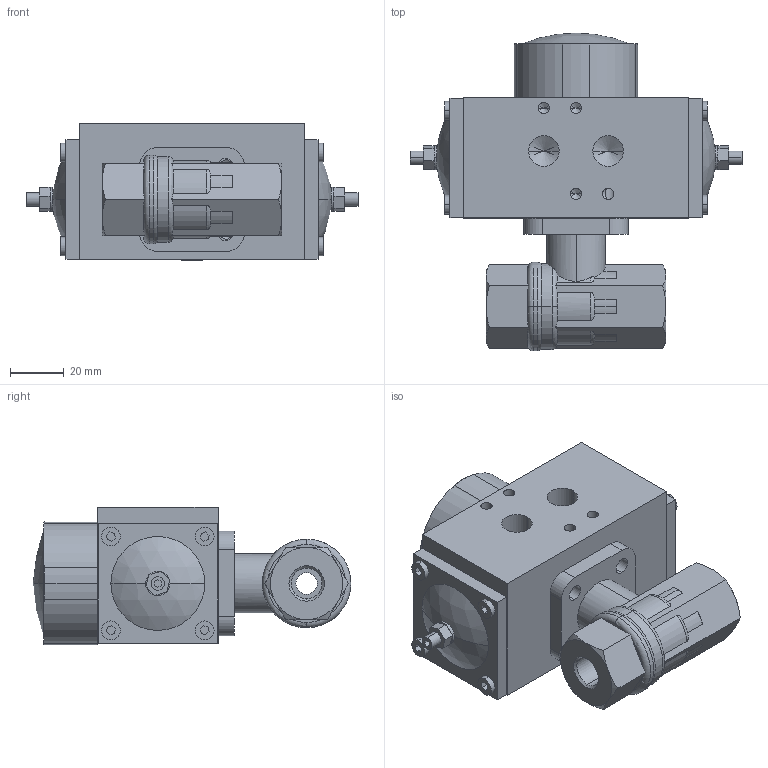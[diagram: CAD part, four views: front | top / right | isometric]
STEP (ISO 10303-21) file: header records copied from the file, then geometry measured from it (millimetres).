
FILE_DESCRIPTION (( 'STEP AP214' ), '1' );
FILE_NAME ('A25-DN08-G1_4+AP0.step', '2011-03-03T09:44:54', ( '' ), ( '' ), 'SwSTEP 2.0', 'SolidWorks 2011', '' );
FILE_SCHEMA (( 'AUTOMOTIVE_DESIGN' ));
Length unit declared in the file: millimetre
Products named in the file (3): AP0_Default<As Machined>; Ballvalve A25-DN08 G1_4; A25-DN08-G1_4+AP0
Assembly tree (2 placements, depth 2):
  A25-DN08-G1_4+AP0
    Ballvalve A25-DN08 G1_4
    AP0_Default<As Machined>
Bounding box: 123.81 x 118.49 x 51.44 mm (x, y, z)
Volume: 358193.6 mm3; surface area: 62038.6 mm2
Topology: 6 solids, 6 shells, 384 faces, 941 edges, 589 vertices
Faces by surface type: plane 213, cylinder 106, cone 45, torus 14, sphere 6
Entity records: 12538 total; most frequent: CARTESIAN_POINT 2459, DIRECTION 1905, ORIENTED_EDGE 1830, EDGE_CURVE 915, AXIS2_PLACEMENT_3D 675, VERTEX_POINT 589, VECTOR 555, LINE 555
